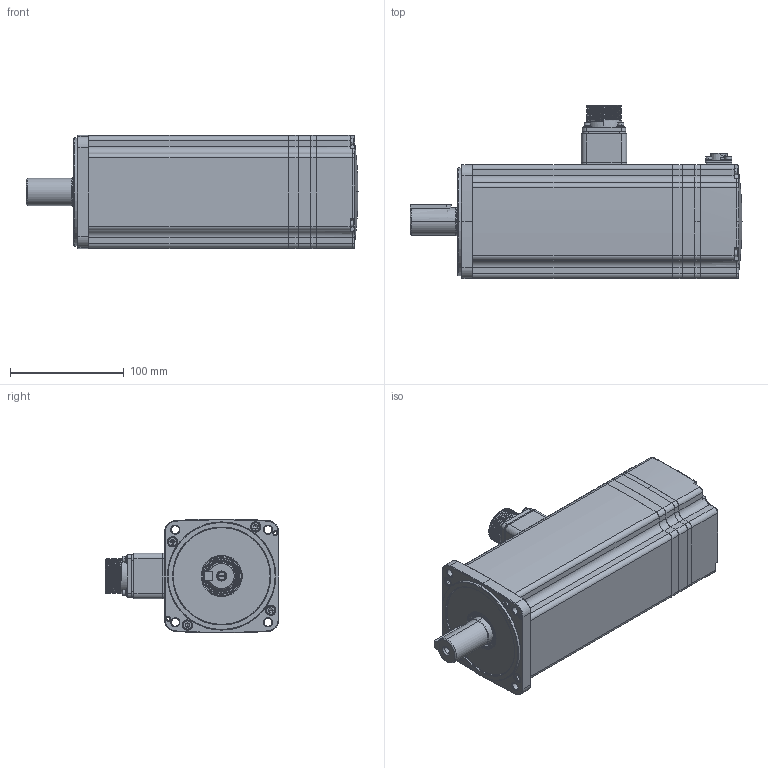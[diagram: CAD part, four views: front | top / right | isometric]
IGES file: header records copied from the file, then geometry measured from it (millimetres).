
Start section: SolidWorks IGES file using analytic representation for surfaces
Bounding box: 291.5 x 152.05 x 100 mm (x, y, z)
Surface area: 147578 mm2 (no closed solid volume)
Topology: 0 solids, 0 shells, 719 faces, 9825 edges, 9796 vertices
Faces by surface type: revolution 382, bspline 337
